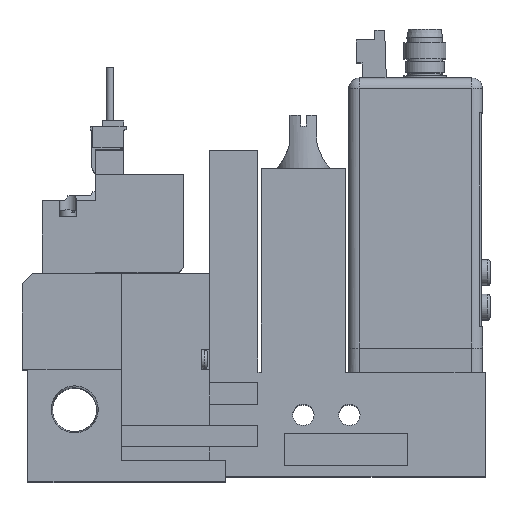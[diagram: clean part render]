
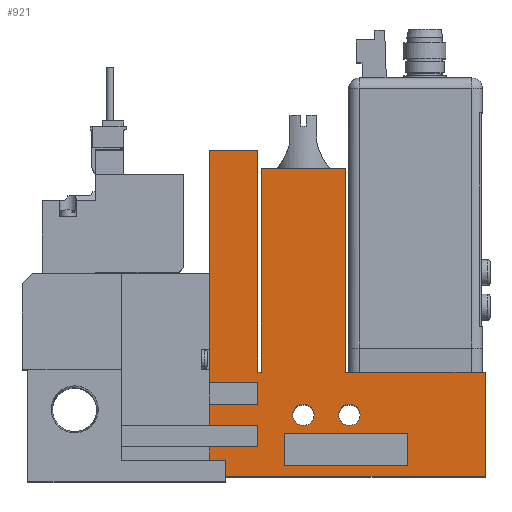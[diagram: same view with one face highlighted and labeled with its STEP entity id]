
A CAD part, top view. The second image highlights one B-rep face of the part: STEP entity #921.
In plain terms, the highlighted planar face has unit normal (0, 0, 1).
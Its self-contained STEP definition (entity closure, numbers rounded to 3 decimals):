
#921=ADVANCED_FACE('',(#3637,#3638,#3639,#3640),#3641,.T.);
#3637=FACE_OUTER_BOUND('',#9254,.T.);
#3638=FACE_BOUND('',#9255,.T.);
#3639=FACE_BOUND('',#9256,.T.);
#3640=FACE_BOUND('',#9257,.T.);
#3641=PLANE('',#9258);
#9254=EDGE_LOOP('',(#16512,#16513,#16514,#16515,#16516,#16517,#16518,#16519,#16520,#16521,#16522,#16523,#16524,#16525,#16526,#16527,#16528,#16529));
#9255=EDGE_LOOP('',(#16530,#16531,#16532,#16533));
#9256=EDGE_LOOP('',(#16534));
#9257=EDGE_LOOP('',(#16535));
#9258=AXIS2_PLACEMENT_3D('',#16536,#16537,#16538);
#16512=ORIENTED_EDGE('',*,*,#34387,.T.);
#16513=ORIENTED_EDGE('',*,*,#34341,.T.);
#16514=ORIENTED_EDGE('',*,*,#34388,.T.);
#16515=ORIENTED_EDGE('',*,*,#34389,.T.);
#16516=ORIENTED_EDGE('',*,*,#34390,.T.);
#16517=ORIENTED_EDGE('',*,*,#34391,.T.);
#16518=ORIENTED_EDGE('',*,*,#34386,.T.);
#16519=ORIENTED_EDGE('',*,*,#34304,.T.);
#16520=ORIENTED_EDGE('',*,*,#34392,.T.);
#16521=ORIENTED_EDGE('',*,*,#34331,.T.);
#16522=ORIENTED_EDGE('',*,*,#34393,.T.);
#16523=ORIENTED_EDGE('',*,*,#34352,.T.);
#16524=ORIENTED_EDGE('',*,*,#34394,.T.);
#16525=ORIENTED_EDGE('',*,*,#34289,.T.);
#16526=ORIENTED_EDGE('',*,*,#34395,.T.);
#16527=ORIENTED_EDGE('',*,*,#34396,.T.);
#16528=ORIENTED_EDGE('',*,*,#34397,.T.);
#16529=ORIENTED_EDGE('',*,*,#34398,.T.);
#16530=ORIENTED_EDGE('',*,*,#34399,.T.);
#16531=ORIENTED_EDGE('',*,*,#34317,.T.);
#16532=ORIENTED_EDGE('',*,*,#34400,.T.);
#16533=ORIENTED_EDGE('',*,*,#34401,.T.);
#16534=ORIENTED_EDGE('',*,*,#34402,.T.);
#16535=ORIENTED_EDGE('',*,*,#34403,.T.);
#16536=CARTESIAN_POINT('',(0.0,0.0,10.0));
#16537=DIRECTION('',(0.0,0.0,1.0));
#16538=DIRECTION('',(1.0,0.0,0.0));
#34289=EDGE_CURVE('',#41440,#41438,#41441,.T.);
#34304=EDGE_CURVE('',#41469,#41467,#41470,.T.);
#34317=EDGE_CURVE('',#41488,#41493,#41495,.T.);
#34331=EDGE_CURVE('',#41522,#41520,#41523,.T.);
#34341=EDGE_CURVE('',#41533,#41537,#41539,.T.);
#34352=EDGE_CURVE('',#41561,#41559,#41562,.T.);
#34386=EDGE_CURVE('',#41614,#41469,#41616,.T.);
#34387=EDGE_CURVE('',#41617,#41533,#41618,.T.);
#34388=EDGE_CURVE('',#41537,#41619,#41620,.T.);
#34389=EDGE_CURVE('',#41619,#41621,#41622,.T.);
#34390=EDGE_CURVE('',#41621,#41623,#41624,.T.);
#34391=EDGE_CURVE('',#41623,#41614,#41625,.T.);
#34392=EDGE_CURVE('',#41467,#41522,#41626,.T.);
#34393=EDGE_CURVE('',#41520,#41561,#41627,.T.);
#34394=EDGE_CURVE('',#41559,#41440,#41628,.T.);
#34395=EDGE_CURVE('',#41438,#41629,#41630,.T.);
#34396=EDGE_CURVE('',#41629,#41631,#41632,.T.);
#34397=EDGE_CURVE('',#41631,#41633,#41634,.T.);
#34398=EDGE_CURVE('',#41633,#41617,#41635,.T.);
#34399=EDGE_CURVE('',#41636,#41488,#41637,.T.);
#34400=EDGE_CURVE('',#41493,#41638,#41639,.T.);
#34401=EDGE_CURVE('',#41638,#41636,#41640,.T.);
#34402=EDGE_CURVE('',#41641,#41641,#41642,.T.);
#34403=EDGE_CURVE('',#41643,#41643,#41644,.T.);
#41438=VERTEX_POINT('',#52094);
#41440=VERTEX_POINT('',#52097);
#41441=LINE('',#52098,#52099);
#41467=VERTEX_POINT('',#52135);
#41469=VERTEX_POINT('',#52138);
#41470=LINE('',#52139,#52140);
#41488=VERTEX_POINT('',#52165);
#41493=VERTEX_POINT('',#52172);
#41495=LINE('',#52175,#52176);
#41520=VERTEX_POINT('',#52213);
#41522=VERTEX_POINT('',#52216);
#41523=LINE('',#52217,#52218);
#41533=VERTEX_POINT('',#52234);
#41537=VERTEX_POINT('',#52240);
#41539=LINE('',#52243,#52244);
#41559=VERTEX_POINT('',#52269);
#41561=VERTEX_POINT('',#52272);
#41562=LINE('',#52273,#52274);
#41614=VERTEX_POINT('',#52356);
#41616=LINE('',#52359,#52360);
#41617=VERTEX_POINT('',#52361);
#41618=LINE('',#52362,#52363);
#41619=VERTEX_POINT('',#52364);
#41620=LINE('',#52365,#52366);
#41621=VERTEX_POINT('',#52367);
#41622=LINE('',#52368,#52369);
#41623=VERTEX_POINT('',#52370);
#41624=LINE('',#52371,#52372);
#41625=LINE('',#52373,#52374);
#41626=LINE('',#52375,#52376);
#41627=LINE('',#52377,#52378);
#41628=LINE('',#52379,#52380);
#41629=VERTEX_POINT('',#52381);
#41630=LINE('',#52382,#52383);
#41631=VERTEX_POINT('',#52384);
#41632=LINE('',#52385,#52386);
#41633=VERTEX_POINT('',#52387);
#41634=LINE('',#52388,#52389);
#41635=LINE('',#52390,#52391);
#41636=VERTEX_POINT('',#52392);
#41637=LINE('',#52393,#52394);
#41638=VERTEX_POINT('',#52395);
#41639=LINE('',#52396,#52397);
#41640=LINE('',#52398,#52399);
#41641=VERTEX_POINT('',#52400);
#41642=CIRCLE('',#52401,2.0);
#41643=VERTEX_POINT('',#52402);
#41644=CIRCLE('',#52403,2.0);
#52094=CARTESIAN_POINT('',(44.75,57.5,10.0));
#52097=CARTESIAN_POINT('',(60.45,57.5,10.0));
#52098=CARTESIAN_POINT('',(60.45,57.5,10.0));
#52099=VECTOR('',#66990,1.0);
#52135=CARTESIAN_POINT('',(35.1,5.5,10.0));
#52138=CARTESIAN_POINT('',(44.1,5.5,10.0));
#52139=CARTESIAN_POINT('',(0.0,5.5,10.0));
#52140=VECTOR('',#67011,1.0);
#52165=CARTESIAN_POINT('',(49.1,8.0,10.0));
#52172=CARTESIAN_POINT('',(72.1,8.0,10.0));
#52175=CARTESIAN_POINT('',(0.0,8.0,10.0));
#52176=VECTOR('',#67028,1.0);
#52213=CARTESIAN_POINT('',(86.6,0.0,10.0));
#52216=CARTESIAN_POINT('',(35.1,0.0,10.0));
#52217=CARTESIAN_POINT('',(18.6,0.0,10.0));
#52218=VECTOR('',#67042,1.0);
#52234=CARTESIAN_POINT('',(35.1,17.5,10.0));
#52240=CARTESIAN_POINT('',(44.1,17.5,10.0));
#52243=CARTESIAN_POINT('',(0.0,17.5,10.0));
#52244=VECTOR('',#67052,1.0);
#52269=CARTESIAN_POINT('',(60.45,19.5,10.0));
#52272=CARTESIAN_POINT('',(86.6,19.5,10.0));
#52273=CARTESIAN_POINT('',(86.6,19.5,10.0));
#52274=VECTOR('',#67071,1.0);
#52356=CARTESIAN_POINT('',(44.1,9.5,10.0));
#52359=CARTESIAN_POINT('',(44.1,0.0,10.0));
#52360=VECTOR('',#67109,1.0);
#52361=CARTESIAN_POINT('',(35.1,61.0,10.0));
#52362=CARTESIAN_POINT('',(35.1,61.0,10.0));
#52363=VECTOR('',#67110,1.0);
#52364=CARTESIAN_POINT('',(44.1,13.5,10.0));
#52365=CARTESIAN_POINT('',(44.1,0.0,10.0));
#52366=VECTOR('',#67111,1.0);
#52367=CARTESIAN_POINT('',(35.1,13.5,10.0));
#52368=CARTESIAN_POINT('',(0.0,13.5,10.0));
#52369=VECTOR('',#67112,1.0);
#52370=CARTESIAN_POINT('',(35.1,9.5,10.0));
#52371=CARTESIAN_POINT('',(35.1,0.0,10.0));
#52372=VECTOR('',#67113,1.0);
#52373=CARTESIAN_POINT('',(0.0,9.5,10.0));
#52374=VECTOR('',#67114,1.0);
#52375=CARTESIAN_POINT('',(35.1,0.0,10.0));
#52376=VECTOR('',#67115,1.0);
#52377=CARTESIAN_POINT('',(86.6,0.0,10.0));
#52378=VECTOR('',#67116,1.0);
#52379=CARTESIAN_POINT('',(60.45,19.5,10.0));
#52380=VECTOR('',#67117,1.0);
#52381=CARTESIAN_POINT('',(44.75,19.5,10.0));
#52382=CARTESIAN_POINT('',(44.75,57.5,10.0));
#52383=VECTOR('',#67118,1.0);
#52384=CARTESIAN_POINT('',(44.1,19.5,10.0));
#52385=CARTESIAN_POINT('',(44.75,19.5,10.0));
#52386=VECTOR('',#67119,1.0);
#52387=CARTESIAN_POINT('',(44.1,61.0,10.0));
#52388=CARTESIAN_POINT('',(44.1,19.5,10.0));
#52389=VECTOR('',#67120,1.0);
#52390=CARTESIAN_POINT('',(44.1,61.0,10.0));
#52391=VECTOR('',#67121,1.0);
#52392=CARTESIAN_POINT('',(49.1,2.0,10.0));
#52393=CARTESIAN_POINT('',(49.1,0.0,10.0));
#52394=VECTOR('',#67122,1.0);
#52395=CARTESIAN_POINT('',(72.1,2.0,10.0));
#52396=CARTESIAN_POINT('',(72.1,0.0,10.0));
#52397=VECTOR('',#67123,1.0);
#52398=CARTESIAN_POINT('',(0.0,2.0,10.0));
#52399=VECTOR('',#67124,1.0);
#52400=CARTESIAN_POINT('',(54.6,11.5,10.0));
#52401=AXIS2_PLACEMENT_3D('',#67125,#67126,#67127);
#52402=CARTESIAN_POINT('',(63.2,11.5,10.0));
#52403=AXIS2_PLACEMENT_3D('',#67128,#67129,#67130);
#66990=DIRECTION('',(-1.0,0.0,0.0));
#67011=DIRECTION('',(-1.0,0.0,0.0));
#67028=DIRECTION('',(1.0,0.0,0.0));
#67042=DIRECTION('',(1.0,0.0,0.0));
#67052=DIRECTION('',(1.0,0.0,0.0));
#67071=DIRECTION('',(-1.0,0.0,0.0));
#67109=DIRECTION('',(0.0,-1.0,0.0));
#67110=DIRECTION('',(0.0,-1.0,0.0));
#67111=DIRECTION('',(0.0,-1.0,0.0));
#67112=DIRECTION('',(-1.0,0.0,0.0));
#67113=DIRECTION('',(0.0,-1.0,0.0));
#67114=DIRECTION('',(1.0,0.0,0.0));
#67115=DIRECTION('',(0.0,-1.0,0.0));
#67116=DIRECTION('',(0.0,1.0,0.0));
#67117=DIRECTION('',(0.0,1.0,0.0));
#67118=DIRECTION('',(0.0,-1.0,0.0));
#67119=DIRECTION('',(-1.0,0.0,0.0));
#67120=DIRECTION('',(0.0,1.0,0.0));
#67121=DIRECTION('',(-1.0,0.0,0.0));
#67122=DIRECTION('',(0.0,1.0,0.0));
#67123=DIRECTION('',(0.0,-1.0,0.0));
#67124=DIRECTION('',(-1.0,0.0,0.0));
#67125=CARTESIAN_POINT('',(52.6,11.5,10.0));
#67126=DIRECTION('',(0.0,0.0,-1.0));
#67127=DIRECTION('',(1.0,0.0,0.0));
#67128=CARTESIAN_POINT('',(61.2,11.5,10.0));
#67129=DIRECTION('',(0.0,0.0,-1.0));
#67130=DIRECTION('',(1.0,0.0,0.0));
